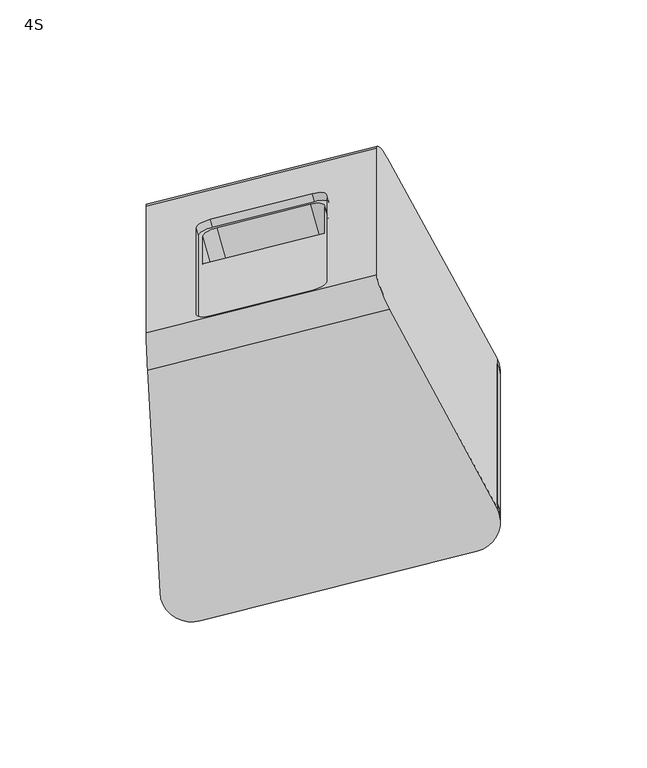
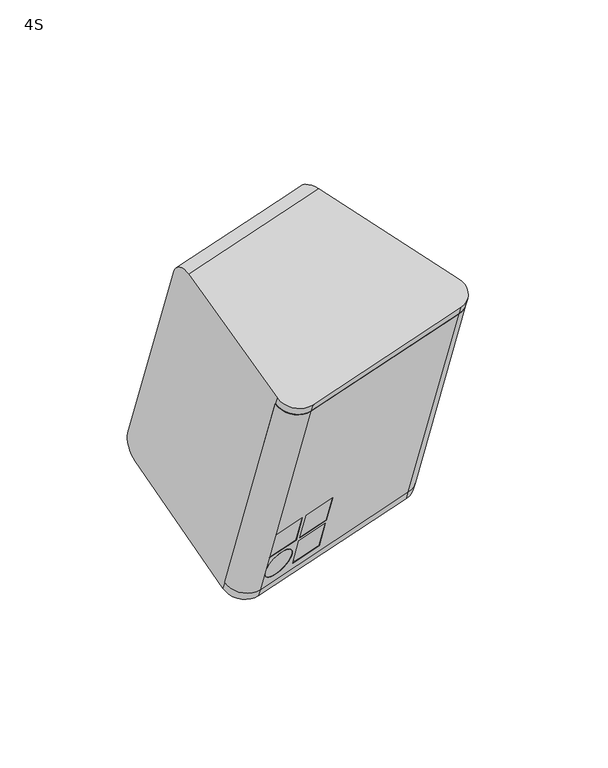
"""IFC4 building model written with IfcOpenShell, lengths in millimetres: proxy geometry, d&b xS-Series 4S Point Source : 4S."""

import ifcopenshell
import ifcopenshell.guid

model = None  # the IFC model being written
_history = None  # IfcOwnerHistory: only IFC2X3 demands one
_inside = {}  # id of a spatial element -> (the spatial element, [elements in it])
_under = {}  # id of a project, library or spatial element -> (it, [spatial elements below it])
_declared = {}  # id of a project -> (the project, [libraries it declares])
_typed = {}  # id of a type object -> (the type object, [elements of that type])
_made_of = {}  # id of a material, layer set ... -> (it, [elements and type objects made of it])


def new_model(schema):
    """Start an empty IFC model of exactly this schema.

    Asked for "IFC4X3", IfcOpenShell would pick the latest addendum, in which some entities
    have other attributes; the version numbers below select the first issue.
    IFC2X3 requires an IfcOwnerHistory on every rooted entity: one is made here for all.
    """
    global model, _history
    if schema == "IFC4X3":
        model = ifcopenshell.file(schema_version=(4, 3, 0, 0))
    else:
        model = ifcopenshell.file(schema=schema)
    _inside.clear()
    _under.clear()
    _declared.clear()
    _typed.clear()
    _made_of.clear()
    _history = None
    if model.schema == "IFC2X3":
        org = make("IfcOrganization", Name="unknown")
        user = make(
            "IfcPersonAndOrganization",
            ThePerson=make("IfcPerson", FamilyName="unknown"),
            TheOrganization=org,
        )
        app = make(
            "IfcApplication",
            ApplicationDeveloper=org,
            Version="unknown",
            ApplicationFullName="unknown",
            ApplicationIdentifier="unknown",
        )
        _history = make(
            "IfcOwnerHistory",
            OwningUser=user,
            OwningApplication=app,
            ChangeAction="ADDED",
            CreationDate=0,
        )
    return model


def make(cls, **values):
    """One entity of the class cls with the attributes given. An attribute that is None is left unset."""
    return model.create_entity(
        cls, **{name: value for name, value in values.items() if value is not None}
    )


def rooted(cls, **values):
    """An entity with a GlobalId (a new one), such as an element, a storey or a relation."""
    return make(cls, GlobalId=ifcopenshell.guid.new(), OwnerHistory=_history, **values)


def si_unit(unit_type, name, prefix=None):
    """IfcSIUnit, for example si_unit("LENGTHUNIT", "METRE", prefix="MILLI")."""
    return make("IfcSIUnit", UnitType=unit_type, Prefix=prefix, Name=name)


def assignment(units):
    """IfcUnitAssignment: the units of a project."""
    return None if units is None else make("IfcUnitAssignment", Units=units)


def point(xyz):
    """IfcCartesianPoint."""
    return None if xyz is None else make("IfcCartesianPoint", Coordinates=xyz)


def direction(xyz):
    """IfcDirection."""
    return None if xyz is None else make("IfcDirection", DirectionRatios=xyz)


def frame(location, z_axis=None, x_axis=None):
    """IfcAxis2Placement3D, a coordinate frame: its origin and axes. An axis left out is left unset."""
    return make(
        "IfcAxis2Placement3D",
        Location=point(location),
        Axis=direction(z_axis),
        RefDirection=direction(x_axis),
    )


def frame_2d(location, x_axis=None):
    """IfcAxis2Placement2D, a coordinate frame in the plane: its origin and x axis."""
    return make(
        "IfcAxis2Placement2D", Location=point(location), RefDirection=direction(x_axis)
    )


def origin():
    """The frame at (0, 0, 0) with its axes left unset."""
    return frame((0.0, 0.0, 0.0))


def place(relative_to, where):
    """IfcLocalPlacement: puts the frame where relative to a parent placement (None: the world)."""
    return make(
        "IfcLocalPlacement", PlacementRelTo=relative_to, RelativePlacement=where
    )


def context(
    kind, dimensions, precision=None, world=None, true_north=None, identifier=None
):
    """IfcGeometricRepresentationContext, for example the 3D "Model" context."""
    return make(
        "IfcGeometricRepresentationContext",
        ContextIdentifier=identifier,
        ContextType=kind,
        CoordinateSpaceDimension=dimensions,
        Precision=precision,
        WorldCoordinateSystem=world,
        TrueNorth=true_north,
    )


def project(units=None, contexts=None):
    """IfcProject with its units and contexts."""
    return rooted(
        "IfcProject",
        Name="project",
        RepresentationContexts=contexts,
        UnitsInContext=assignment(units),
    )


def spatial(cls, under=None, at=None, **own):
    """A site, building, storey or space (cls), placed at a placement, below another one or the project."""
    s = rooted(cls, ObjectPlacement=at, **own)
    if under is not None:
        _under.setdefault(under.id(), (under, []))[1].append(s)
    return s


def polyline(points):
    """IfcPolyline through the points."""
    return make("IfcPolyline", Points=[point(p) for p in points])


def circle_curve(where, radius):
    """IfcCircle in the frame where."""
    return make("IfcCircle", Position=where, Radius=radius)


def ellipse_curve(where, semi_axis1, semi_axis2):
    """IfcEllipse in the frame where."""
    return make(
        "IfcEllipse", Position=where, SemiAxis1=semi_axis1, SemiAxis2=semi_axis2
    )


def trimmed(basis, trim1, trim2, sense, master):
    """IfcTrimmedCurve: the piece of a basis curve between two trims."""
    return make(
        "IfcTrimmedCurve",
        BasisCurve=basis,
        Trim1=trim1,
        Trim2=trim2,
        SenseAgreement=sense,
        MasterRepresentation=master,
    )


def segment(curve, same_sense, transition):
    """IfcCompositeCurveSegment."""
    return make(
        "IfcCompositeCurveSegment",
        Transition=transition,
        SameSense=same_sense,
        ParentCurve=curve,
    )


def composite_curve(segments, self_intersect=None):
    """IfcCompositeCurve: segments joined end to end."""
    return make("IfcCompositeCurve", Segments=segments, SelfIntersect=self_intersect)


def outline(outer, holes=None, kind="AREA"):
    """IfcArbitraryClosedProfileDef: a profile drawn as a closed curve; with holes, ...WithVoids."""
    if holes is None:
        return make("IfcArbitraryClosedProfileDef", ProfileType=kind, OuterCurve=outer)
    return make(
        "IfcArbitraryProfileDefWithVoids",
        ProfileType=kind,
        OuterCurve=outer,
        InnerCurves=holes,
    )


def extrude(swept, where, along, depth):
    """IfcExtrudedAreaSolid: the profile swept, set in the frame where, extruded along a direction by depth."""
    return make(
        "IfcExtrudedAreaSolid",
        SweptArea=swept,
        Position=where,
        ExtrudedDirection=direction(along),
        Depth=depth,
    )


def shape(context_of_items, identifier, shape_type, items):
    """IfcShapeRepresentation: the items that make up one representation, for example the "Body"."""
    return make(
        "IfcShapeRepresentation",
        ContextOfItems=context_of_items,
        RepresentationIdentifier=identifier,
        RepresentationType=shape_type,
        Items=items,
    )


def source(mapping_origin, context_of_items, identifier, shape_type, items):
    """IfcRepresentationMap: a shape defined once, which mapped items show again and again."""
    return make(
        "IfcRepresentationMap",
        MappingOrigin=mapping_origin,
        MappedRepresentation=shape(context_of_items, identifier, shape_type, items),
    )


def transform(
    local_origin,
    x_axis=None,
    y_axis=None,
    z_axis=None,
    scale=None,
    scale2=None,
    scale3=None,
    uniform=True,
):
    """IfcCartesianTransformationOperator3D, or its non-uniform kind. x_axis, y_axis, z_axis: its Axis1, 2, 3."""
    if uniform:
        return make(
            "IfcCartesianTransformationOperator3D",
            Axis1=direction(x_axis),
            Axis2=direction(y_axis),
            LocalOrigin=point(local_origin),
            Scale=scale,
            Axis3=direction(z_axis),
        )
    return make(
        "IfcCartesianTransformationOperator3DnonUniform",
        Axis1=direction(x_axis),
        Axis2=direction(y_axis),
        LocalOrigin=point(local_origin),
        Scale=scale,
        Axis3=direction(z_axis),
        Scale2=scale2,
        Scale3=scale3,
    )


def mapped(mapping_source, mapping_target):
    """IfcMappedItem: shows the shape of a source again, moved by a transform."""
    return make(
        "IfcMappedItem", MappingSource=mapping_source, MappingTarget=mapping_target
    )


def made_of(thing, what):
    """Note that an element or type object is made of a material, layer set ...; save() writes the relation."""
    if what is not None:
        _made_of.setdefault(what.id(), (what, []))[1].append(thing)
    return thing


def element(
    cls,
    number,
    at=None,
    inside=None,
    cuts=None,
    type_object=None,
    material=None,
    context=None,
    identifier="Body",
    shape_type=None,
    held_by="IfcProductDefinitionShape",
    body=None,
    shapes=None,
    **own,
):
    """One element of the class cls, such as IfcWall. Its Tag is "e" and its number.

    at: its placement. inside: the storey or other place that contains it. cuts: it is an
    opening in that element (IfcRelVoidsElement). A single representation is given by context,
    identifier, shape_type and body (its items); several are given by shapes. held_by: the class
    of the entity that holds the representations. save() writes the other relations.
    """
    e = rooted(cls, Tag="e%d" % number, ObjectPlacement=at, **own)
    if body is not None:
        shapes = [shape(context, identifier, shape_type, body)]
    if shapes is not None:
        e.Representation = make(held_by, Representations=shapes)
    if inside is not None:
        _inside.setdefault(inside.id(), (inside, []))[1].append(e)
    if cuts is not None:
        rooted(
            "IfcRelVoidsElement", RelatingBuildingElement=cuts, RelatedOpeningElement=e
        )
    if type_object is not None:
        _typed.setdefault(type_object.id(), (type_object, []))[1].append(e)
    return made_of(e, material)


def aggregate(whole, parts):
    """IfcRelAggregates: a whole, such as a stair, and the parts it consists of."""
    return rooted("IfcRelAggregates", RelatingObject=whole, RelatedObjects=parts)


def save(model, path):
    """Write the relations noted so far, then the file.

    IfcRelAggregates (storeys below a building ...), IfcRelContainedInSpatialStructure (elements
    in a storey), IfcRelDefinesByType, IfcRelAssociatesMaterial and IfcRelDeclares: one each for
    every whole, place, type object, material and project.
    """
    for whole, parts in _under.values():
        aggregate(whole, parts)
    for where, things in _inside.values():
        rooted(
            "IfcRelContainedInSpatialStructure",
            RelatedElements=things,
            RelatingStructure=where,
        )
    for kind, things in _typed.values():
        rooted("IfcRelDefinesByType", RelatedObjects=things, RelatingType=kind)
    for what, things in _made_of.values():
        rooted("IfcRelAssociatesMaterial", RelatedObjects=things, RelatingMaterial=what)
    for by, libraries in _declared.values():
        rooted("IfcRelDeclares", RelatingContext=by, RelatedDefinitions=libraries)
    model.write(path)


def plane_surface(at):
    """IfcPlane: the flat surface through the origin of the frame at, square to its z axis."""
    return make("IfcPlane", Position=at)


def cylinder_surface(at, radius):
    """IfcCylindricalSurface: all points at the distance radius from the z axis of the frame at."""
    return make("IfcCylindricalSurface", Position=at, Radius=radius)


def revolved_surface(curve, axis_point, axis_direction):
    """IfcSurfaceOfRevolution: the curve turned about the line through axis_point along axis_direction."""
    return make(
        "IfcSurfaceOfRevolution",
        SweptCurve=make("IfcArbitraryOpenProfileDef", ProfileType="CURVE", Curve=curve),
        AxisPosition=make("IfcAxis1Placement", Location=point(axis_point), Axis=direction(axis_direction)),
    )


def advanced_brep(points, edges, surfaces, faces):
    """IfcAdvancedBrep: a solid bounded by faces that lie on surfaces and meet in shared edges.

    An edge is (start, end): straight between two places in points (the first is 0);
    or (start, end, curve); or (start, end, curve, False) where it runs against its curve.
    A face is (place in surfaces, loops), or (place, loops, False) where it looks against
    its surface's normal. A loop lists edges by number (the first is 1), with a minus sign
    where the edge is run from its end to its start. The first loop is the outer one.
    """
    corners = [point(p) for p in points]
    vertices = [make("IfcVertexPoint", VertexGeometry=c) for c in corners]
    made = []
    for start, end, *more in edges:
        made.append(
            make(
                "IfcEdgeCurve",
                EdgeStart=vertices[start],
                EdgeEnd=vertices[end],
                EdgeGeometry=more[0] if more else make("IfcPolyline", Points=[corners[start], corners[end]]),
                SameSense=more[1] if len(more) > 1 else True,
            )
        )
    hull = []
    for where, loops, *sense in faces:
        bounds = []
        for j, loop in enumerate(loops):
            ring = [make("IfcOrientedEdge", EdgeElement=made[abs(k) - 1], Orientation=k > 0) for k in loop]
            bounds.append(
                make(
                    "IfcFaceOuterBound" if j == 0 else "IfcFaceBound",
                    Bound=make("IfcEdgeLoop", EdgeList=ring),
                    Orientation=True,
                )
            )
        hull.append(make("IfcAdvancedFace", Bounds=bounds, FaceSurface=surfaces[where], SameSense=sense[0] if sense else True))
    return make("IfcAdvancedBrep", Outer=make("IfcClosedShell", CfsFaces=hull))


def proxy_4s_803dc05e(model_context):
    return source(origin(), model_context, "Body", "SolidModel", [
        extrude(outline(composite_curve([segment(polyline([(-2.2870286, -11.5470262), (-2.2870286, 97.3792889)]), True, "CONTINUOUS"), segment(trimmed(circle_curve(frame_2d((0.0, 91.8322626)), 6.0), [point((-2.2870286, 97.3792889))], [point((6.0, 91.8322626))], False, "CARTESIAN"), True, "CONTINUOUS"), segment(polyline([(6.0, 91.8322626), (6.0, -5.9999999)]), True, "CONTINUOUS"), segment(trimmed(circle_curve(frame_2d((0.0, -6.0)), 6.0), [point((6.0, -5.9999999))], [point((-2.2870286, -11.5470262))], False, "CARTESIAN"), True, "CONTINUOUS")], self_intersect=False)), frame((-31.1010378, -22.803172, -82.7921199), z_axis=(0.0, -0.34202014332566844, 0.9396926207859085), x_axis=(0.25881904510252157, -0.9076733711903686, -0.33036608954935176)), (0.0, 0.0, 1.0), 140.0),
        advanced_brep(
        [(-16.9151344, -44.4684164, -45.4500687), (-18.2092296, -39.9300496, -43.7982382), (-18.2092296, -33.9446971, -60.2428591), (-16.9151344, -38.4830639, -61.8946896), (-35.1129316, -38.2008781, -61.7919823), (-33.8188363, -42.739245, -63.4438128), (-35.1129316, -44.1862307, -45.3473615), (-33.8188363, -48.7245975, -46.9991919), (2.4033822, -39.6042095, -43.6796422), (1.1092869, -35.0658426, -42.0278117), (1.1092869, -29.0804901, -58.4724326), (2.4033822, -33.618857, -60.124263), (-15.794415, -33.3366712, -60.0215558), (-14.5003198, -37.8750381, -61.6733862), (-15.794415, -39.3220237, -43.5769349), (-14.5003198, -43.8603906, -45.2287654), (2.4033822, -32.7638066, -62.4734946), (1.1092869, -28.2254398, -60.8216641), (1.1092869, -22.2400873, -77.266285), (2.4033822, -26.7784541, -78.9181154), (-15.794415, -26.4962683, -78.8154082), (-14.5003198, -31.0346352, -80.4672387), (-15.794415, -32.4816209, -62.3707873), (-14.5003198, -37.0199877, -64.0226178), (-25.3669853, -33.7707516, -81.4631036), (-26.6610806, -29.2323847, -79.8112731), (-26.6610806, -35.2177373, -63.3666523), (-25.3669853, -39.7561041, -65.0184827), (60.4491258, -58.3358427, 53.2599337), (67.4031881, -43.6587089, 58.6019736), (62.3682057, -44.9264665, 58.1405475), (59.1550306, -53.7974759, 54.9117642), (-35.3436784, -77.5912944, 46.2515225), (-42.8465352, -71.4184734, 48.4982456), (-47.8815176, -72.686231, 48.0368196), (-34.0495832, -82.1296612, 44.599692), (60.4491258, -10.4530226, -78.2970332), (-34.0495832, -34.2468412, -86.9572749), (-47.8815176, -24.8034109, -83.5201473), (-42.8465352, -23.5356533, -83.0587213), (-35.3436784, -29.7084743, -85.3054444), (59.1550306, -5.9146558, -76.6452027), (62.3682057, 2.9563536, -73.4164194), (67.4031881, 4.2241112, -72.9549933)],
        [
            (0, 1),
            (1, 2),
            (2, 3),
            (3, 0),
            (2, 4),
            (4, 5),
            (5, 3),
            (4, 6),
            (6, 7),
            (7, 5),
            (0, 7),
            (6, 1),
            (8, 9),
            (9, 10),
            (10, 11),
            (11, 8),
            (10, 12),
            (12, 13),
            (13, 11),
            (12, 14),
            (14, 15),
            (15, 13),
            (8, 15),
            (14, 9),
            (16, 17),
            (17, 18),
            (18, 19),
            (19, 16),
            (18, 20),
            (20, 21),
            (21, 19),
            (20, 22),
            (22, 23),
            (23, 21),
            (16, 23),
            (22, 17),
            (24, 25),
            (25, 26, circle_curve(frame((-26.6610806, -32.225061, -71.5889627), z_axis=(-0.25881904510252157, 0.9076733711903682, 0.33036608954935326), x_axis=(0.0, -0.3420201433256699, 0.939692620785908)), 8.75)),
            (26, 27),
            (27, 24, circle_curve(frame((-25.3669853, -36.7634279, -73.2407932), z_axis=(0.25881904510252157, -0.9076733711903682, -0.33036608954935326), x_axis=(0.0, -0.3420201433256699, 0.939692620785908)), 8.75)),
            (24, 27, circle_curve(frame((-25.3669853, -36.7634279, -73.2407932), z_axis=(0.25881904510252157, -0.9076733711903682, -0.33036608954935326), x_axis=(0.0, -0.3420201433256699, 0.939692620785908)), 8.75)),
            (26, 25, circle_curve(frame((-26.6610806, -32.225061, -71.5889627), z_axis=(-0.25881904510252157, 0.9076733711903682, 0.33036608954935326), x_axis=(0.0, -0.3420201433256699, 0.939692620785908)), 8.75)),
            (28, 29, circle_curve(frame((57.6021163, -48.3514356, 56.8939607), z_axis=(0.0, -0.34202014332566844, 0.9396926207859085), x_axis=(0.2588190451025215, -0.9076733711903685, -0.3303660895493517)), 11.0)),
            (29, 30),
            (30, 31, circle_curve(frame((57.6021163, -48.3514356, 56.8939607), z_axis=(0.0, 0.34202014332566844, -0.9396926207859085), x_axis=(0.2588190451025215, -0.9076733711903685, -0.3303660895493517)), 6.0)),
            (31, 32),
            (32, 33, circle_curve(frame((-36.8965927, -72.1452541, 48.233719), z_axis=(0.0, 0.34202014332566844, -0.9396926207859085), x_axis=(0.2588190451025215, -0.9076733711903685, -0.3303660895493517)), 6.0)),
            (33, 34),
            (34, 35, circle_curve(frame((-36.8965927, -72.1452541, 48.233719), z_axis=(0.0, -0.34202014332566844, 0.9396926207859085), x_axis=(0.2588190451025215, -0.9076733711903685, -0.3303660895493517)), 11.0)),
            (35, 28),
            (36, 37),
            (37, 38, circle_curve(frame((-36.8965927, -24.2624341, -83.3232479), z_axis=(0.0, 0.34202014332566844, -0.9396926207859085), x_axis=(0.2588190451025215, -0.9076733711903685, -0.3303660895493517)), 11.0)),
            (38, 39),
            (39, 40, circle_curve(frame((-36.8965927, -24.2624341, -83.3232479), z_axis=(0.0, -0.34202014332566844, 0.9396926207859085), x_axis=(0.2588190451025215, -0.9076733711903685, -0.3303660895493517)), 6.0)),
            (40, 41),
            (41, 42, circle_curve(frame((57.6021163, -0.4686156, -74.6630062), z_axis=(0.0, -0.34202014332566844, 0.9396926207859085), x_axis=(0.2588190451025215, -0.9076733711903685, -0.3303660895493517)), 6.0)),
            (42, 43),
            (43, 36, circle_curve(frame((57.6021163, -0.4686156, -74.6630062), z_axis=(0.0, 0.34202014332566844, -0.9396926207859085), x_axis=(0.2588190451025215, -0.9076733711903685, -0.3303660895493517)), 11.0)),
            (28, 36),
            (43, 29),
            (42, 30),
            (41, 31),
            (40, 32),
            (39, 33),
            (38, 34),
            (37, 35),
        ],
        [
            plane_surface(frame((-16.9151344, -38.4830639, -61.8946896), z_axis=(-0.9659258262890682, -0.24321034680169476, -0.08852132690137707), x_axis=(-0.25881904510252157, 0.9076733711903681, 0.33036608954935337))),
            plane_surface(frame((-33.8188363, -42.739245, -63.4438128), z_axis=(0.0, -0.34202014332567, 0.939692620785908), x_axis=(-0.25881904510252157, 0.9076733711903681, 0.33036608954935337))),
            plane_surface(frame((-33.8188363, -48.7245975, -46.9991919), z_axis=(0.9659258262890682, 0.24321034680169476, 0.08852132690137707), x_axis=(-0.25881904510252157, 0.9076733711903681, 0.33036608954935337))),
            plane_surface(frame((-16.9151344, -44.4684164, -45.4500687), z_axis=(0.0, 0.34202014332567, -0.939692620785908), x_axis=(-0.25881904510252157, 0.9076733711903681, 0.33036608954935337))),
            plane_surface(frame((2.4033822, -33.618857, -60.124263), z_axis=(-0.9659258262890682, -0.24321034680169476, -0.08852132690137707), x_axis=(-0.25881904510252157, 0.9076733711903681, 0.33036608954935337))),
            plane_surface(frame((-14.5003198, -37.8750381, -61.6733862), z_axis=(0.0, -0.34202014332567, 0.939692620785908), x_axis=(-0.25881904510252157, 0.9076733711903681, 0.33036608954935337))),
            plane_surface(frame((-14.5003198, -43.8603906, -45.2287654), z_axis=(0.9659258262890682, 0.24321034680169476, 0.08852132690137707), x_axis=(-0.25881904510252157, 0.9076733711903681, 0.33036608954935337))),
            plane_surface(frame((2.4033822, -39.6042095, -43.6796422), z_axis=(0.0, 0.34202014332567, -0.939692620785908), x_axis=(-0.25881904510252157, 0.9076733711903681, 0.33036608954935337))),
            plane_surface(frame((2.4033822, -26.7784541, -78.9181154), z_axis=(-0.9659258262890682, -0.24321034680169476, -0.08852132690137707), x_axis=(-0.25881904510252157, 0.9076733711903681, 0.33036608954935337))),
            plane_surface(frame((-14.5003198, -31.0346352, -80.4672387), z_axis=(0.0, -0.34202014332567, 0.939692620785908), x_axis=(-0.25881904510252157, 0.9076733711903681, 0.33036608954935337))),
            plane_surface(frame((-14.5003198, -37.0199877, -64.0226178), z_axis=(0.9659258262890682, 0.24321034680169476, 0.08852132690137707), x_axis=(-0.25881904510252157, 0.9076733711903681, 0.33036608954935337))),
            plane_surface(frame((2.4033822, -32.7638066, -62.4734946), z_axis=(0.0, 0.34202014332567, -0.939692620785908), x_axis=(-0.25881904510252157, 0.9076733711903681, 0.33036608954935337))),
            revolved_surface(polyline([(-25.366985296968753, -39.75610416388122, -65.01848273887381), (-26.6610805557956, -35.21773719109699, -63.36665224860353)]), (-1.7503406, -119.5865428, -103.3859417), (0.2588190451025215, -0.907673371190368, -0.3303660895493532)),
            plane_surface(frame((60.4491258, -58.3358427, 53.2599337), z_axis=(0.0, -0.34202014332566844, 0.9396926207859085), x_axis=(0.9659258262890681, 0.24321034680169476, 0.08852132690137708))),
            plane_surface(frame((60.4491258, -10.4530226, -78.2970332), z_axis=(0.0, 0.34202014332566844, -0.9396926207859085), x_axis=(-0.9659258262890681, -0.24321034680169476, -0.08852132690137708))),
            cylinder_surface(frame((57.6021163, -0.4686156, -74.6630062), z_axis=(0.0, -0.34202014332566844, 0.9396926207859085), x_axis=(0.2588190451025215, -0.9076733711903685, -0.3303660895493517)), 11.0),
            plane_surface(frame((67.4031881, -43.6587089, 58.6019736), z_axis=(-0.25881904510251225, 0.9076733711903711, 0.33036608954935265), x_axis=(0.0, 0.34202014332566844, -0.9396926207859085))),
            revolved_surface(polyline([(59.155030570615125, -5.914655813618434, -76.64520277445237), (59.155030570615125, -53.79747590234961, 54.91176419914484)]), (57.6021163, -0.4686156, -74.6630062), (0.0, 0.34202014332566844, -0.9396926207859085)),
            plane_surface(frame((59.1550306, -53.7974759, 54.9117642), z_axis=(-0.2588190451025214, 0.9076733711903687, 0.3303660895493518), x_axis=(0.0, 0.34202014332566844, -0.9396926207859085))),
            revolved_surface(polyline([(-35.34367842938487, -29.708474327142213, -85.3054444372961), (-35.34367842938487, -77.5912944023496, 46.25152249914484)]), (-36.8965927, -24.2624341, -83.3232479), (0.0, 0.34202014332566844, -0.9396926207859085)),
            plane_surface(frame((-42.8465352, -71.4184734, 48.4982456), z_axis=(-0.2588190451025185, 0.9076733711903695, 0.3303660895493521), x_axis=(0.0, 0.34202014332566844, -0.9396926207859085))),
            cylinder_surface(frame((-36.8965927, -24.2624341, -83.3232479), z_axis=(0.0, -0.34202014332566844, 0.9396926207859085), x_axis=(0.2588190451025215, -0.9076733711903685, -0.3303660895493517)), 11.0),
            plane_surface(frame((-34.0495832, -82.1296612, 44.599692), z_axis=(0.2588190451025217, -0.9076733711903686, -0.33036608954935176), x_axis=(0.0, 0.34202014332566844, -0.9396926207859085))),
        ],
        [
            (0, [[1, 2, 3, 4]]),
            (1, [[-3, 5, 6, 7]]),
            (2, [[-6, 8, 9, 10]]),
            (3, [[-1, 11, -9, 12]]),
            (4, [[13, 14, 15, 16]]),
            (5, [[-15, 17, 18, 19]]),
            (6, [[-18, 20, 21, 22]]),
            (7, [[-13, 23, -21, 24]]),
            (8, [[25, 26, 27, 28]]),
            (9, [[-27, 29, 30, 31]]),
            (10, [[-30, 32, 33, 34]]),
            (11, [[-25, 35, -33, 36]]),
            (12, [[37, 38, 39, 40]]),
            (12, [[-37, 41, -39, 42]]),
            (13, [[43, 44, 45, 46, 47, 48, 49, 50]]),
            (14, [[51, 52, 53, 54, 55, 56, 57, 58]]),
            (15, [[-43, 59, -58, 60]]),
            (16, [[-44, -60, -57, 61]]),
            (17, [[-45, -61, -56, 62]]),
            (18, [[-46, -62, -55, 63], [-2, -12, -8, -5], [-14, -24, -20, -17], [-26, -36, -32, -29], [-38, -42]]),
            (19, [[-47, -63, -54, 64]]),
            (20, [[-48, -64, -53, 65]]),
            (21, [[-49, -65, -52, 66]]),
            (22, [[-50, -66, -51, -59], [-4, -7, -10, -11], [-16, -19, -22, -23], [-28, -31, -34, -35], [-40, -41]]),
        ],
    ),
        extrude(outline(polyline([(1e-07, -17.5), (0.0, 0.0), (5.0000001, 0.0), (5.0, -17.5), (1e-07, -17.5)])), frame((-33.8043583, -42.7355996, -63.442486), z_axis=(0.0, -0.34202014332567, 0.939692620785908), x_axis=(-0.25881904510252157, 0.9076733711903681, 0.33036608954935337)), (0.0, 0.0, 1.0), 17.5),
        extrude(outline(polyline([(-1e-07, -17.5), (0.0, 0.0), (4.9999999, 0.0), (5.0, -17.5), (-1e-07, -17.5)])), frame((-14.4858418, -37.8713926, -61.6720594), z_axis=(0.0, -0.34202014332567, 0.939692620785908), x_axis=(-0.25881904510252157, 0.9076733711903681, 0.33036608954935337)), (0.0, 0.0, 1.0), 17.5),
        extrude(outline(polyline([(0.0, -17.5), (0.0, 0.0), (5.0, 0.0), (5.0, -17.5), (0.0, -17.5)])), frame((-14.4858418, -31.0309898, -80.4659118), z_axis=(0.0, -0.34202014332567, 0.939692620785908), x_axis=(-0.25881904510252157, 0.9076733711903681, 0.33036608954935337)), (0.0, 0.0, 1.0), 17.5),
        extrude(outline(composite_curve([segment(trimmed(circle_curve(frame_2d((-8.75, -28.75)), 8.75), [point((-8.75, -37.5))], [point((-8.75, -20.0))], False, "CARTESIAN"), True, "CONTINUOUS"), segment(trimmed(circle_curve(frame_2d((-8.75, -28.75)), 8.75), [point((-8.75, -20.0))], [point((-8.75, -37.5))], False, "CARTESIAN"), True, "CONTINUOUS")], self_intersect=False)), frame((-33.8043583, -48.7209521, -46.9978651), z_axis=(-0.25881904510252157, 0.9076733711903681, 0.33036608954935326), x_axis=(-0.9659258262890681, -0.24321034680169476, -0.08852132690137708)), (0.0, 0.0, 1.0), 5.0),
        advanced_brep(
        [(-34.6986192, 18.3174546, 67.7825948), (-29.8689901, 17.8234056, 72.9236645), (5.0223618, 26.6086948, 76.1212483), (9.8519909, 29.5348473, 71.8653918), (9.8519909, 59.1164973, -9.4095236), (5.0223618, 59.6105463, -14.5505933), (-29.8689901, 50.825257, -17.7481771), (-34.6986192, 47.8991046, -13.4923206), (-28.3527337, 50.6701509, -16.1341443), (3.5061054, 58.6918842, -13.2144722), (8.3357345, 58.1978352, -8.0734024), (8.3357345, 48.8227558, 17.6844166), (-33.1823628, 38.368919, 13.8795312), (-33.1823628, 47.7439985, -11.8782878), (-35.4750763, 21.0404747, 68.773693), (-30.6454472, 20.5464257, 73.9147628), (4.2459046, 29.331715, 77.1123465), (9.0755337, 32.2578674, 72.8564901), (9.0755337, 61.8395174, -8.4184253), (4.2459046, 62.3335664, -13.559495), (-30.6454472, 53.5482771, -16.7570788), (-35.4750763, 50.6221247, -12.5012223), (7.6472101, 44.1691102, -18.5003296), (-24.211629, 36.147377, -21.4200017), (-29.0412581, 33.2212245, -17.1641453), (-29.0412581, 23.8461451, 8.5936737), (12.4768392, 34.2999818, 12.3985591), (12.4768392, 43.6750612, -13.3592599), (60.4491258, -58.3358427, 53.2599337), (-34.0495832, -82.1296612, 44.599692), (-47.8815176, -72.686231, 48.0368196), (67.4031881, -43.6587089, 58.6019736), (60.4491258, -10.4530226, -78.2970332), (67.4031881, 4.2241112, -72.9549933), (-47.8815176, -24.8034109, -83.5201473), (-34.0495832, -34.2468412, -86.9572749), (67.4031881, 5.8376754, -77.3882246), (30.7909943, 72.9009583, -51.5517229), (26.2285779, 77.8954907, -39.0936223), (26.2285779, 34.5403597, 80.023621), (30.7909943, 22.7064132, 86.3566563), (67.4031881, -45.2744251, 63.0411175), (-52.1021658, 52.0292996, -59.1483854), (-47.8815176, -23.1898467, -87.9533786), (-47.8815176, -74.3019472, 52.4759635), (-52.1021658, 1.8347545, 78.7599938), (-52.6281205, 14.6850412, 72.7968761), (-52.6281205, 58.0401721, -46.3203673), (60.4491258, -60.0288353, 57.9113928), (-34.0495832, -83.8226539, 49.2511511), (60.4491258, -8.762182, -82.9425796), (-34.0495832, -32.5560005, -91.6028213)],
        [
            (0, 1, circle_curve(frame((-29.8689901, 19.5335063, 68.2252014), z_axis=(-0.25881904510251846, 0.9076733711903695, 0.3303660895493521), x_axis=(-0.9659258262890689, -0.2432103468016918, -0.088521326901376)), 5.0)),
            (1, 2),
            (2, 3, circle_curve(frame((5.0223618, 28.3187956, 71.4227852), z_axis=(-0.25881904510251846, 0.9076733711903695, 0.3303660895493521), x_axis=(-0.9659258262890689, -0.2432103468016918, -0.088521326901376)), 5.0)),
            (3, 4),
            (4, 5, circle_curve(frame((5.0223618, 57.9004455, -9.8521302), z_axis=(-0.25881904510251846, 0.9076733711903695, 0.3303660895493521), x_axis=(-0.9659258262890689, -0.2432103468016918, -0.088521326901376)), 5.0)),
            (5, 6),
            (6, 7, circle_curve(frame((-29.8689901, 49.1151563, -13.049714), z_axis=(-0.25881904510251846, 0.9076733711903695, 0.3303660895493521), x_axis=(-0.9659258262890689, -0.2432103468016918, -0.088521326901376)), 5.0)),
            (7, 0),
            (8, 9),
            (9, 10, circle_curve(frame((3.5061054, 56.9817834, -8.5160091), z_axis=(0.25881904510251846, -0.9076733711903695, -0.3303660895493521), x_axis=(-0.9659258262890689, -0.2432103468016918, -0.088521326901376)), 5.0)),
            (10, 11),
            (11, 12),
            (12, 13),
            (13, 8, circle_curve(frame((-28.3527337, 48.9600502, -11.4356812), z_axis=(0.25881904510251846, -0.9076733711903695, -0.3303660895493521), x_axis=(-0.9659258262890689, -0.2432103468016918, -0.088521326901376)), 5.0)),
            (0, 14),
            (14, 15, circle_curve(frame((-30.6454472, 22.2565264, 69.2162997), z_axis=(-0.25881904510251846, 0.9076733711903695, 0.3303660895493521), x_axis=(-0.9659258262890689, -0.2432103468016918, -0.088521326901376)), 5.0)),
            (15, 1),
            (15, 16),
            (16, 2),
            (16, 17, circle_curve(frame((4.2459046, 31.0418157, 72.4138834), z_axis=(-0.25881904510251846, 0.9076733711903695, 0.3303660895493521), x_axis=(-0.9659258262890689, -0.2432103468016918, -0.088521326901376)), 5.0)),
            (17, 3),
            (17, 18),
            (18, 4),
            (18, 19, circle_curve(frame((4.2459046, 60.6234657, -8.8610319), z_axis=(-0.25881904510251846, 0.9076733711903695, 0.3303660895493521), x_axis=(-0.9659258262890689, -0.2432103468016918, -0.088521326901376)), 5.0)),
            (19, 5),
            (19, 20),
            (20, 6),
            (20, 21, circle_curve(frame((-30.6454472, 51.8381764, -12.0586157), z_axis=(-0.25881904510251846, 0.9076733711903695, 0.3303660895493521), x_axis=(-0.9659258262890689, -0.2432103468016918, -0.088521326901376)), 5.0)),
            (21, 7),
            (21, 14),
            (22, 23),
            (23, 24, circle_curve(frame((-24.211629, 34.4372763, -16.7215386), z_axis=(-0.25881904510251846, 0.9076733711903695, 0.3303660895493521), x_axis=(-0.9659258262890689, -0.2432103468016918, -0.088521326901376)), 5.0)),
            (24, 25),
            (25, 26),
            (26, 27),
            (27, 22, circle_curve(frame((7.6472101, 42.4590095, -13.8018665), z_axis=(-0.25881904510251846, 0.9076733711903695, 0.3303660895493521), x_axis=(-0.9659258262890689, -0.2432103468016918, -0.088521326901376)), 5.0)),
            (28, 29),
            (29, 30, circle_curve(frame((-36.8965927, -72.1452541, 48.233719), z_axis=(0.0, 0.34202014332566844, -0.9396926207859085), x_axis=(0.2588190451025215, -0.9076733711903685, -0.3303660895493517)), 11.0)),
            (30, 31),
            (31, 28, circle_curve(frame((57.6021163, -48.3514356, 56.8939607), z_axis=(0.0, 0.34202014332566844, -0.9396926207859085), x_axis=(0.2588190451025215, -0.9076733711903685, -0.3303660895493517)), 11.0)),
            (32, 33, circle_curve(frame((57.6021163, -0.4686156, -74.6630062), z_axis=(0.0, -0.34202014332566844, 0.9396926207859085), x_axis=(0.2588190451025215, -0.9076733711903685, -0.3303660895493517)), 11.0)),
            (33, 34),
            (34, 35, circle_curve(frame((-36.8965927, -24.2624341, -83.3232479), z_axis=(0.0, -0.34202014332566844, 0.9396926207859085), x_axis=(0.2588190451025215, -0.9076733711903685, -0.3303660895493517)), 11.0)),
            (35, 32),
            (22, 9),
            (8, 23),
            (13, 24),
            (12, 25),
            (11, 26),
            (10, 27),
            (36, 37),
            (37, 38, ellipse_curve(frame((30.869907, 69.3357165, -42.2091253), z_axis=(0.891006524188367, 0.4266115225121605, 0.15527389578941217), x_axis=(-0.45399049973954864, 0.8372722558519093, 0.30474217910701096)), 10.2234059, 10.0)),
            (38, 39),
            (39, 40, ellipse_curve(frame((30.869907, 25.9805855, 76.908118), z_axis=(0.891006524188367, 0.4266115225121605, 0.15527389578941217), x_axis=(-0.45399049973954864, 0.8372722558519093, 0.30474217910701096)), 10.2234059, 10.0)),
            (40, 41),
            (41, 31),
            (31, 33),
            (33, 36),
            (30, 34),
            (42, 43),
            (43, 34),
            (30, 44),
            (44, 45),
            (45, 46, ellipse_curve(frame((-52.0930687, 5.0913479, 69.3050573), z_axis=(-0.9986295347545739, -0.04917971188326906, -0.01789995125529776), x_axis=(0.05233595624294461, -0.9384048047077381, -0.3415514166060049)), 10.2234059, 10.0)),
            (46, 47),
            (47, 42, ellipse_curve(frame((-52.0930687, 48.4464789, -49.812186), z_axis=(-0.9986295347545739, -0.04917971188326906, -0.01789995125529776), x_axis=(0.05233595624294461, -0.9384048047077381, -0.3415514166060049)), 10.2234059, 10.0)),
            (38, 47),
            (46, 39),
            (41, 48, ellipse_curve(frame((57.6021163, -49.9804531, 61.3696494), z_axis=(0.004400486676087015, 0.3265382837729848, -0.9451737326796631), x_axis=(0.2587816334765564, -0.9133572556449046, -0.31434151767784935)), 11.0015903, 11.0)),
            (48, 28),
            (29, 49),
            (49, 44, ellipse_curve(frame((-36.8965927, -73.7742716, 52.7094077), z_axis=(0.004400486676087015, 0.3265382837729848, -0.9451737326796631), x_axis=(0.2587816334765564, -0.9133572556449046, -0.31434151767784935)), 11.0015903, 11.0)),
            (48, 49),
            (32, 50),
            (50, 36, ellipse_curve(frame((57.6021163, 1.1582498, -79.1327822), z_axis=(0.004400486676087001, -0.3574031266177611, 0.9339398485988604), x_axis=(-0.2587816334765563, 0.9017270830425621, 0.3462951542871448)), 11.0015903, 11.0)),
            (43, 51, ellipse_curve(frame((-36.8965927, -22.6355687, -87.7930239), z_axis=(0.004400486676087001, -0.3574031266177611, 0.9339398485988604), x_axis=(-0.2587816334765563, 0.9017270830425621, 0.3462951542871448)), 11.0015903, 11.0)),
            (51, 35),
            (51, 50),
            (40, 45),
            (42, 37),
        ],
        [
            plane_surface(frame((-34.6986192, 18.3174546, 67.7825948), z_axis=(-0.2588190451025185, 0.9076733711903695, 0.3303660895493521), x_axis=(0.0, 0.34202014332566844, -0.9396926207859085))),
            revolved_surface(polyline([(-35.47507636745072, 21.040474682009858, 68.7736930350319), (-34.69861923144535, 18.31745456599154, 67.78259476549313)]), (-29.8689901, 19.5335063, 68.2252014), (-0.2588190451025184, 0.9076733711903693, 0.33036608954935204)),
            plane_surface(frame((-30.6454472, 20.5464257, 73.9147628), z_axis=(0.0, 0.3420201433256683, -0.9396926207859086), x_axis=(0.25881904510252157, -0.9076733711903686, -0.33036608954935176))),
            revolved_surface(polyline([(-0.5837244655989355, 29.82576397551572, 71.97127683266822), (0.19273268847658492, 27.102743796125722, 70.98017854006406)]), (5.0223618, 28.3187956, 71.4227852), (-0.2588190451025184, 0.9076733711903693, 0.33036608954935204)),
            plane_surface(frame((9.0755337, 32.2578674, 72.8564901), z_axis=(-0.9659258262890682, -0.24321034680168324, -0.08852132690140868), x_axis=(0.25881904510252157, -0.9076733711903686, -0.33036608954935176))),
            revolved_surface(polyline([(-0.5837244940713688, 59.40741397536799, -9.30363853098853), (0.19273266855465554, 56.68439376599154, -10.29473683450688)]), (5.0223618, 57.9004455, -9.8521302), (-0.2588190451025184, 0.9076733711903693, 0.33036608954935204)),
            plane_surface(frame((4.2459046, 62.3335664, -13.559495), z_axis=(0.0, -0.34202014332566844, 0.9396926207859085), x_axis=(0.25881904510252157, -0.9076733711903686, -0.33036608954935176))),
            revolved_surface(polyline([(-35.47507637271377, 50.62212470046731, -12.50122235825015), (-34.698619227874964, 47.899104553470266, -13.492320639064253)]), (-29.8689901, 49.1151563, -13.049714), (-0.2588190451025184, 0.9076733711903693, 0.33036608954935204)),
            plane_surface(frame((-35.4750763, 50.6221247, -12.5012223), z_axis=(0.9659258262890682, 0.24321034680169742, 0.08852132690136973), x_axis=(0.25881904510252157, -0.9076733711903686, -0.33036608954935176))),
            plane_surface(frame((-17.9414677, 37.7261401, -20.845379), z_axis=(-0.25881904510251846, 0.9076733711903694, 0.33036608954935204), x_axis=(0.965925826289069, 0.24321034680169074, 0.08852132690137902))),
            plane_surface(frame((60.4491258, -58.3358427, 53.2599337), z_axis=(0.0, 0.34202014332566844, -0.9396926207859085), x_axis=(-0.9659258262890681, -0.24321034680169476, -0.08852132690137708))),
            plane_surface(frame((60.4491258, -10.4530226, -78.2970332), z_axis=(0.0, -0.34202014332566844, 0.9396926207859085), x_axis=(0.9659258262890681, 0.24321034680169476, 0.08852132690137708))),
            plane_surface(frame((2.7296483, 61.4149043, -12.2233739), z_axis=(0.0, -0.34202014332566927, 0.9396926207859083), x_axis=(0.25881904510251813, -0.9076733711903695, -0.33036608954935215))),
            revolved_surface(polyline([(-33.18236284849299, 47.743998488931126, -11.878287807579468), (-29.041258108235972, 33.221224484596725, -17.16414526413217)]), (-24.211629, 34.4372763, -16.7215386), (-0.2588190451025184, 0.9076733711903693, 0.33036608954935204)),
            plane_surface(frame((-33.95882, 50.4670186, -10.8871896), z_axis=(0.9659258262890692, 0.24321034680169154, 0.08852132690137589), x_axis=(0.25881904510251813, -0.9076733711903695, -0.33036608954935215))),
            plane_surface(frame((-33.95882, 41.0919392, 14.8706294), z_axis=(0.0, 0.34202014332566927, -0.9396926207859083), x_axis=(0.25881904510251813, -0.9076733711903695, -0.33036608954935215))),
            plane_surface(frame((7.5592774, 51.5457759, 18.6755148), z_axis=(-0.9659258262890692, -0.24321034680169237, -0.08852132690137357), x_axis=(0.25881904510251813, -0.9076733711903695, -0.33036608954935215))),
            revolved_surface(polyline([(-1.323523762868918, 55.76573173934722, -8.958615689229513), (2.8175809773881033, 41.24295773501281, -14.244473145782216)]), (7.6472101, 42.4590095, -13.8018665), (-0.2588190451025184, 0.9076733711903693, 0.33036608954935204)),
            plane_surface(frame((26.2285779, 81.8512518, -49.9619868), z_axis=(0.8910065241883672, 0.4266115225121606, 0.1552738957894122), x_axis=(0.0, -0.34202014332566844, 0.9396926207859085))),
            plane_surface(frame((67.4031881, 5.9149518, -77.6005397), z_axis=(0.2588190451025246, -0.907673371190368, -0.33036608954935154), x_axis=(0.0, -0.34202014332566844, 0.9396926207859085))),
            plane_surface(frame((-47.8815176, -23.1125703, -88.1656937), z_axis=(-0.9986295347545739, -0.04917971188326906, -0.01789995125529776), x_axis=(0.0, -0.34202014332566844, 0.9396926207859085))),
            plane_surface(frame((-52.6281205, 61.9959333, -57.1887317), z_axis=(-0.2588190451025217, 0.9076733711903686, 0.33036608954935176), x_axis=(0.0, -0.34202014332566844, 0.9396926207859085))),
            cylinder_surface(frame((57.6021163, -48.3514356, 56.8939607), z_axis=(0.0, -0.34202014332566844, 0.9396926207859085), x_axis=(0.2588190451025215, -0.9076733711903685, -0.3303660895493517)), 11.0),
            cylinder_surface(frame((-36.8965927, -72.1452541, 48.233719), z_axis=(0.0, -0.34202014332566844, 0.9396926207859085), x_axis=(0.2588190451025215, -0.9076733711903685, -0.3303660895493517)), 11.0),
            plane_surface(frame((-34.0495832, -83.8226539, 49.2511511), z_axis=(0.2588190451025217, -0.9076733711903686, -0.33036608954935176), x_axis=(0.0, 0.34202014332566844, -0.9396926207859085))),
            cylinder_surface(frame((57.6021163, 1.222225, -79.3085526), z_axis=(0.0, -0.34202014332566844, 0.9396926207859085), x_axis=(0.2588190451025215, -0.9076733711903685, -0.3303660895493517)), 11.0),
            cylinder_surface(frame((-36.8965927, -22.5715935, -87.9687943), z_axis=(0.0, -0.34202014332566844, 0.9396926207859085), x_axis=(0.2588190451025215, -0.9076733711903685, -0.3303660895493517)), 11.0),
            plane_surface(frame((-34.0495832, -34.2468412, -86.9572749), z_axis=(0.2588190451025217, -0.9076733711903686, -0.33036608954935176), x_axis=(0.0, 0.34202014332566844, -0.9396926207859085))),
            plane_surface(frame((77.5924588, -61.7906964, 57.3825206), z_axis=(-0.004400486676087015, -0.3265382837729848, 0.9451737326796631), x_axis=(-0.9659258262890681, -0.24321034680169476, -0.08852132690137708))),
            cylinder_surface(frame((-73.3967596, -0.2727058, 67.3527014), z_axis=(-0.965925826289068, -0.24321034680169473, -0.08852132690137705), x_axis=(-0.2588190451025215, 0.9076733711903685, 0.3303660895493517)), 10.0),
            plane_surface(frame((52.129593, 78.2738015, -49.5961679), z_axis=(-0.004400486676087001, 0.3574031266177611, -0.9339398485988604), x_axis=(-0.9659258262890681, -0.24321034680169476, -0.08852132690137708))),
            cylinder_surface(frame((-73.3967596, 43.0824251, -51.7645419), z_axis=(-0.965925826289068, -0.24321034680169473, -0.08852132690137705), x_axis=(-0.2588190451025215, 0.9076733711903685, 0.3303660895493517)), 10.0),
        ],
        [
            (0, [[1, 2, 3, 4, 5, 6, 7, 8], [9, 10, 11, 12, 13, 14]]),
            (1, [[-1, 15, 16, 17]]),
            (2, [[-2, -17, 18, 19]]),
            (3, [[-3, -19, 20, 21]]),
            (4, [[-4, -21, 22, 23]]),
            (5, [[-5, -23, 24, 25]]),
            (6, [[-6, -25, 26, 27]]),
            (7, [[-7, -27, 28, 29]]),
            (8, [[-8, -29, 30, -15]]),
            (9, [[31, 32, 33, 34, 35, 36]]),
            (10, [[37, 38, 39, 40]]),
            (11, [[41, 42, 43, 44]]),
            (12, [[-31, 45, -9, 46]]),
            (13, [[-32, -46, -14, 47]]),
            (14, [[-33, -47, -13, 48]]),
            (15, [[-34, -48, -12, 49]]),
            (16, [[-35, -49, -11, 50]]),
            (17, [[-36, -50, -10, -45]]),
            (18, [[51, 52, 53, 54, 55, 56, 57, 58]]),
            (19, [[-39, 59, -42, -57]]),
            (20, [[60, 61, -59, 62, 63, 64, 65, 66]]),
            (21, [[67, -65, 68, -53], [-16, -30, -28, -26, -24, -22, -20, -18]]),
            (22, [[-40, -56, 69, 70]]),
            (23, [[-38, 71, 72, -62]]),
            (24, [[-37, -70, 73, -71]]),
            (25, [[-41, 74, 75, -58]]),
            (26, [[-43, -61, 76, 77]]),
            (27, [[-44, -77, 78, -74]]),
            (28, [[79, -63, -72, -73, -69, -55]]),
            (29, [[-79, -54, -68, -64]]),
            (30, [[80, -51, -75, -78, -76, -60]]),
            (31, [[-80, -66, -67, -52]]),
        ],
    ),
    ])


if __name__ == "__main__":
    model = new_model("IFC4")
    model_context = context("Model", 3, world=origin())
    ifc_project = project(units=[si_unit("LENGTHUNIT", "METRE", prefix="MILLI")], contexts=[model_context])
    site = spatial("IfcSite", under=ifc_project)
    building = spatial("IfcBuilding", under=site)
    placement = place(None, origin())
    proxy_4s_shape = proxy_4s_803dc05e(model_context)
    element("IfcBuildingElementProxy", 1, Name="d&b xS-Series 4S Point Source : 4S", ObjectType="d&b xS-Series 4S Point Source : 4S", at=placement, inside=building, context=model_context, shape_type="MappedRepresentation", body=[
        mapped(proxy_4s_shape, transform((0.0, 0.0, 0.0), x_axis=(1.0, 0.0, 0.0), y_axis=(0.0, 1.0, 0.0), z_axis=(0.0, 0.0, 1.0))),
    ])
    save(model, "model.ifc")
